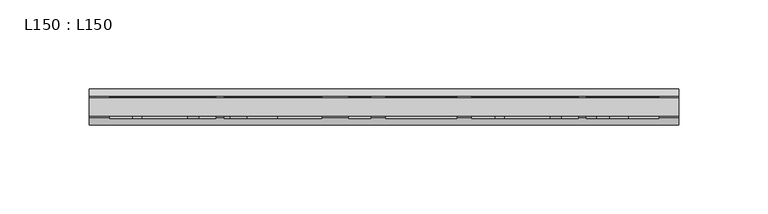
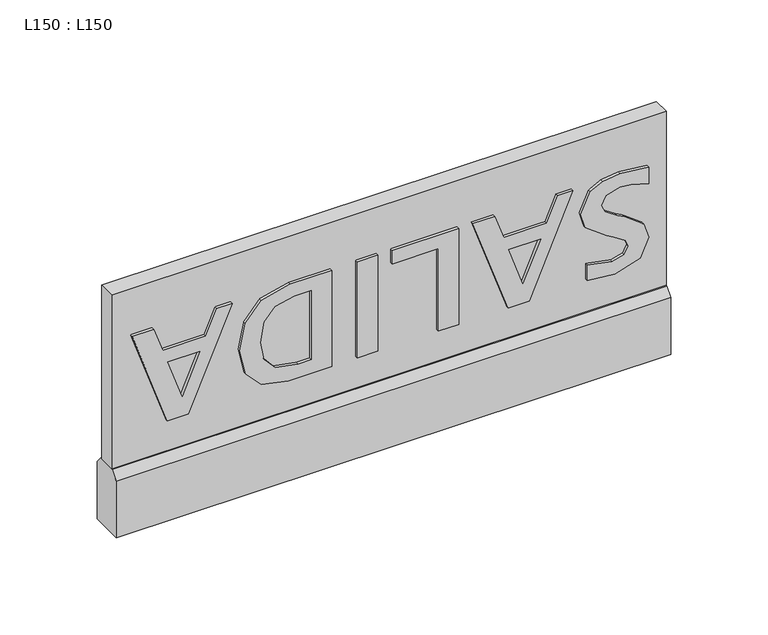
"""IFC4 building model written with IfcOpenShell, lengths in millimetres: light fixture geometry, L150 : L150."""

from ifc_helpers import new_model, si_unit, frame, origin, place, context, project, spatial, polyline, outline, extrude, source, transform, mapped, element, save


def l150_l150_8baf4198(model_context):
    return source(origin(), model_context, "Body", "SweptSolid", [
        extrude(outline(polyline([(119.7755477, 153.9260657), (121.662449, 136.9439537), (120.3707324, 126.3024936), (116.4955825, 118.996279), (104.0464562, 113.3576871), (94.8625536, 116.0553664), (85.4133055, 128.7329847), (83.0841617, 133.0669612), (78.2342357, 140.172324), (74.4014673, 141.6612071), (69.8021453, 139.2436147), (67.8857612, 132.211959), (70.7898203, 117.1314898), (61.2816065, 117.1314898), (59.3947052, 133.6418764), (64.1709242, 148.6928628), (75.6397463, 153.9260657), (85.0300287, 150.8156268), (93.7864302, 139.0814591), (95.9534184, 135.0275696), (100.9655001, 127.4947057), (105.3879251, 125.6225458), (110.8791028, 128.3054836), (113.171393, 136.4280042), (112.6333313, 143.0469002), (109.3238833, 153.9260657), (119.7755477, 153.9260657)])), frame((0.0, -6.5, 0.0), z_axis=(0.0, 1.0, 0.0), x_axis=(0.0, 0.0, 1.0)), (0.0, 0.0, 1.0), 12.0),
        extrude(outline(polyline([(120.7189983, 108.6404338), (120.7189983, 99.5302384), (105.6237877, 93.0587565), (105.6237877, 67.4676572), (120.7189983, 62.2049715), (120.7189983, 49.203042), (60.3381559, 70.2095607), (60.3381559, 82.7250234), (120.7189983, 108.6404338)]), holes=[polyline([(97.1327318, 89.4176266), (72.691463, 78.9217379), (97.1327318, 70.4159405), (97.1327318, 89.4176266)])]), frame((0.0, -6.5, 0.0), z_axis=(0.0, 1.0, 0.0), x_axis=(0.0, 0.0, 1.0)), (0.0, 0.0, 1.0), 12.0),
        extrude(outline(polyline([(120.7189983, 40.7119861), (120.7189983, 1.0870582), (112.2279424, 1.0870582), (112.2279424, 28.4471274), (60.3381559, 28.4471274), (60.3381559, 40.7119861), (120.7189983, 40.7119861)])), frame((0.0, -6.5, 0.0), z_axis=(0.0, 1.0, 0.0), x_axis=(0.0, 0.0, 1.0)), (0.0, 0.0, 1.0), 12.0),
        extrude(outline(polyline([(-7.4039978, -6.5), (-19.6688564, -6.5), (-19.6688564, 5.5), (-7.4039978, 5.5), (-7.4039978, -6.5)])), frame((0.0, 0.0, 60.3381559), z_axis=(0.0, 0.0, 1.0), x_axis=(1.0, 0.0, 0.0)), (0.0, 0.0, 1.0), 60.3808425),
        extrude(outline(polyline([(120.7189983, -34.764067), (120.7189983, -59.5443884), (116.5987724, -76.6886559), (105.3805544, -86.211611), (89.2608153, -89.4842055), (73.5390945, -86.0494555), (63.6844574, -76.8286994), (60.3381559, -60.6352532), (60.3381559, -34.764067), (120.7189983, -34.764067)]), holes=[polyline([(112.2279424, -47.0289257), (68.8292118, -47.0289257), (68.8292118, -54.9155836), (71.3721062, -68.5882475), (78.8386337, -74.9270566), (90.1453003, -77.2193469), (102.2406326, -74.8680909), (109.9503935, -68.4629454), (112.2279424, -56.7877435), (112.2279424, -47.0289257)])]), frame((0.0, -6.5, 0.0), z_axis=(0.0, 1.0, 0.0), x_axis=(0.0, 0.0, 1.0)), (0.0, 0.0, 1.0), 12.0),
        extrude(outline(polyline([(120.7189983, -94.2014588), (120.7189983, -103.3116543), (105.6237877, -109.7831362), (105.6237877, -135.3742355), (120.7189983, -140.6369212), (120.7189983, -153.6388506), (60.3381559, -132.632332), (60.3381559, -120.1168693), (120.7189983, -94.2014588)]), holes=[polyline([(97.1327318, -113.4242661), (72.691463, -123.9201547), (97.1327318, -132.4259521), (97.1327318, -113.4242661)])]), frame((0.0, -6.5, 0.0), z_axis=(0.0, 1.0, 0.0), x_axis=(0.0, 0.0, 1.0)), (0.0, 0.0, 1.0), 12.0),
        extrude(outline(polyline([(165.0, 5.0), (165.0, -5.0), (-165.0, -5.0), (-165.0, 5.0), (165.0, 5.0)])), frame((0.0, 0.0, 40.6066017), z_axis=(0.0, 0.0, 1.0), x_axis=(1.0, 0.0, 0.0)), (0.0, 0.0, 1.0), 109.3933983),
        extrude(outline(polyline([(10.0, 0.0), (-10.0, 0.0), (-10.0, 35.7613568), (-5.7950487, 40.6066017), (6.2049513, 40.6066017), (10.0, 36.0298709), (10.0, 0.0)])), frame((-165.0, 0.0, 0.0), z_axis=(1.0, 0.0, 0.0), x_axis=(0.0, 1.0, 0.0)), (0.0, 0.0, 1.0), 330.0),
    ])


if __name__ == "__main__":
    model = new_model("IFC4")
    model_context = context("Model", 3, world=origin())
    ifc_project = project(units=[si_unit("LENGTHUNIT", "METRE", prefix="MILLI")], contexts=[model_context])
    site = spatial("IfcSite", under=ifc_project)
    building = spatial("IfcBuilding", under=site)
    placement = place(None, origin())
    l150_l150_shape = l150_l150_8baf4198(model_context)
    element("IfcLightFixture", 1, ObjectType="L150 : L150", at=placement, inside=building, context=model_context, shape_type="MappedRepresentation", body=[
        mapped(l150_l150_shape, transform((0.0, 0.0, 0.0), x_axis=(1.0, 0.0, 0.0), y_axis=(0.0, 1.0, 0.0), z_axis=(0.0, 0.0, 1.0))),
    ])
    save(model, "model.ifc")
